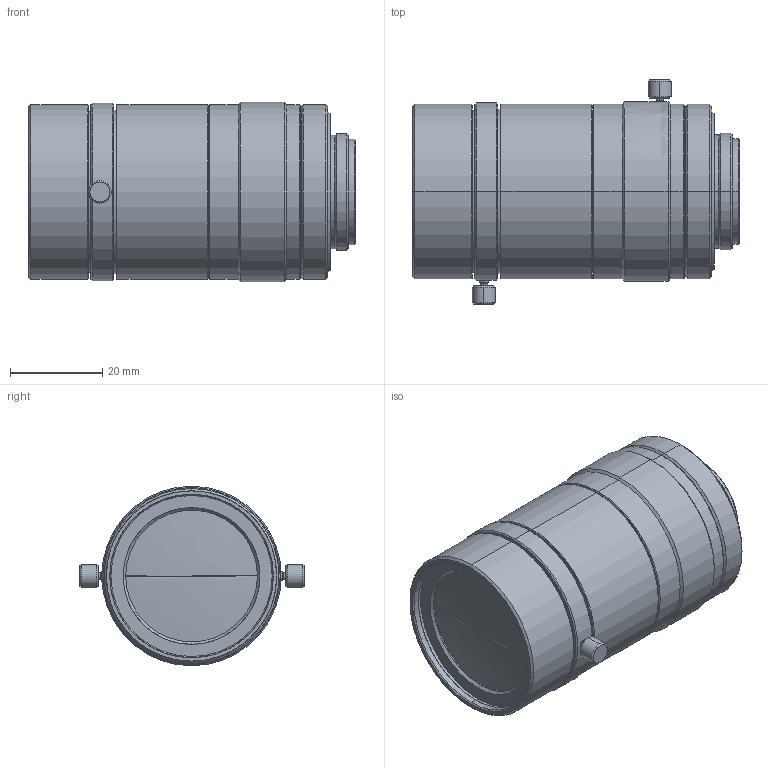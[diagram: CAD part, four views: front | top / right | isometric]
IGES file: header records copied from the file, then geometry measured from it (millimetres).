
Start section: SolidWorks IGES file using analytic representation for surfaces
Bounding box: 71 x 48.8 x 39 mm (x, y, z)
Surface area: 12589.3 mm2 (no closed solid volume)
Topology: 0 solids, 0 shells, 137 faces, 2672 edges, 2670 vertices
Faces by surface type: revolution 116, bspline 21
